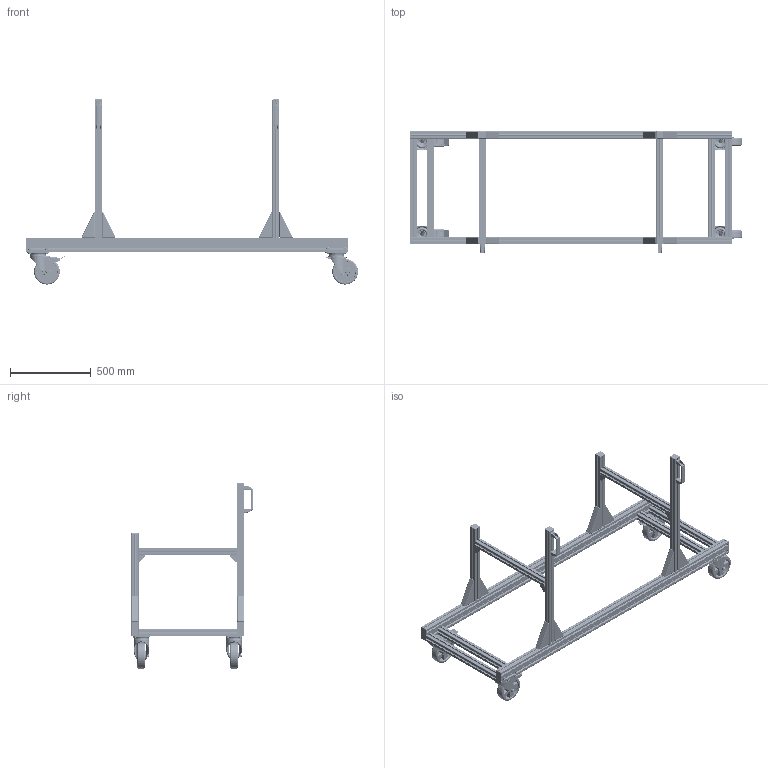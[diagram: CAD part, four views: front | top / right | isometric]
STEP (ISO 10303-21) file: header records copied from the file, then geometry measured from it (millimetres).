
FILE_DESCRIPTION(('STEP AP242'),'1');
FILE_NAME('ALD_CGL_200_70 nu.stp','2026-01-28T14:23:09',(' '),(' '),'Spatial InterOp 3D',' ',' ');
FILE_SCHEMA(('AP242_MANAGED_MODEL_BASED_3D_ENGINEERING_MIM_LF {1 0 10303 442 1 1 4}'));
Length unit declared in the file: millimetre
Products named in the file (44): ALD_CGL_200_70; 45x90L; 45x45L; orientable freinée Ø160; Roue Ø160; Chape à platine freinée Ø160 - Zn; orientable Ø160; Chape à platine Ø160 - Zn; M12-55 - DIN912 - Zn; 45x90 - noir; 08 - DIN125A; 08 DIN 6798A - Zn; M8-20 - DIN 933 - Zn; Equerre 45/45; Poignée standard - 152mm; Equerre 40 x 80x160; Cache équerre 40 x 80x160; Vis; Rondelle; 45x45 - noir; M6-16 - DIN912
Assembly tree (118 placements, depth 4):
  ALD_CGL_200_70
    45x90L
    45x90L
    45x45L
    45x45L
    45x45L
    45x45L
    orientable freinée Ø160  x2
      Roue Ø160
      Chape à platine freinée Ø160 - Zn
        Chape à platine freinée Ø160 - Zn
        Chape à platine freinée Ø160 - Zn
        Chape à platine freinée Ø160 - Zn
        Chape à platine freinée Ø160 - Zn
    orientable Ø160  x2
      Roue Ø160
      Chape à platine Ø160 - Zn
        Chape à platine Ø160 - Zn
        Chape à platine Ø160 - Zn
    M12-55 - DIN912 - Zn  x8
    45x90 - noir  x4
    08 - DIN125A  x16
    08 DIN 6798A - Zn  x16
    M8-20 - DIN 933 - Zn  x16
    45x45L
    45x45L
    45x45L
    45x45L
    45x45L
    45x45L
    Equerre 45/45  x4
    Poignée standard - 152mm  x2
    Equerre 40 x 80x160  x8
      Cache équerre 40 x 80x160
      Vis
      Vis
      Vis
      Vis
      Rondelle
      Rondelle
      Rondelle
      Rondelle
      Equerre 40 x 80x160
    45x45 - noir  x4
    M6-16 - DIN912  x4
Bounding box: 2059.77 x 753.42 x 1148.27 mm (x, y, z)
Volume: 12029091.9 mm3; surface area: 9572586.1 mm2
Topology: 182 solids, 182 shells, 15538 faces, 41270 edges, 26248 vertices
Faces by surface type: plane 7708, cylinder 5414, cone 866, torus 600, sphere 554, bspline 396
Full cylindrical faces by diameter (mm): 4 x8, 5 x8, 5.4 x48, 6 x8, 6.2 x4, 6.6 x96, 8 x56, 8.2 x16, 8.4 x16, 8.7 x48, 9.4 x32, 10 x4, 12 x24, 12.3 x12, 13 x4, 13.5 x8, 16 x16, 18 x8, 19 x4, 21.498 x2, 21.5 x2, 26.397 x2, 26.4 x2, 26.997 x2, 27 x2, 28 x8, 32.997 x2, 33 x2, 35.296 x2, 35.3 x2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
Entity records: 240962 total; most frequent: CARTESIAN_POINT 49809, ORIENTED_EDGE 30098, DIRECTION 29520, EDGE_CURVE 15049, AXIS2_PLACEMENT_3D 10353, VERTEX_POINT 10027, LINE 8814, VECTOR 8814
